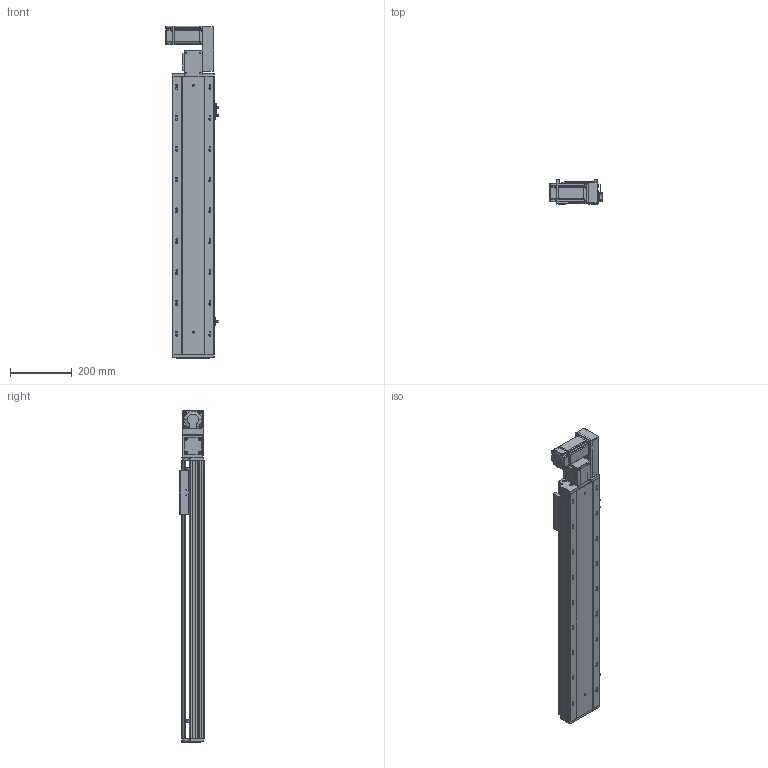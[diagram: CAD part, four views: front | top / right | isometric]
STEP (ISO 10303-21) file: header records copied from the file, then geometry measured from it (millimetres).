
FILE_DESCRIPTION (( 'STEP AP203' ), '1' );
FILE_NAME ('RY140-T-300-RK.SLDASM_650.step', '2021-03-01T06:45:19', ( '盈信电脑' ), ( '东莞市道滘镇水果街19号' ), 'SwSTEP 2.0', 'SolidWorks 2012', '' );
FILE_SCHEMA (( 'CONFIG_CONTROL_DESIGN' ));
Products named in the file (17): RY120-T主同步轮轴承压盖; 15; RY140-T-300-RK.SLDASM_650; RY140-T翋肮謫裔啣; RY140-T萇儂欶; RY120-T蹟翐M4; RY140-T萇儂假蚾啣; RY140-T翋肮祭謫盓傅釱; RY120-T肮祭湍揤踡輸2; 滅袉蝶18-10; RY120-T肮祭湍揤踡輸1; RY140綴裔啣; RY120外置感应片(140共用）; RY140-T-300-DR倰第奻裔啣_650; 覜茼ん672; RY140-T-300-DR倰第菁釱_650; RY140肮祭謫臏賑輸
Assembly tree (22 placements, depth 2):
  RY140-T-300-RK.SLDASM_650
    RY140-T-300-DR倰第菁釱_650
    RY140肮祭謫臏賑輸
    RY140-T-300-DR倰第奻裔啣_650
    RY140綴裔啣
    覜茼ん672  x3
    RY120外置感应片(140共用）
    RY120-T肮祭湍揤踡輸2
    RY120-T肮祭湍揤踡輸1
    RY140-T翋肮祭謫盓傅釱
    滅袉蝶18-10  x2
    RY140-T翋肮謫裔啣
    RY140-T萇儂欶
    RY140-T萇儂假蚾啣
    RY120-T蹟翐M4  x4
    15
    RY120-T主同步轮轴承压盖
Bounding box: 170.7 x 78 x 1076.5 mm (x, y, z)
Volume: 3154855.8 mm3; surface area: 1183393.3 mm2
Topology: 22 solids, 22 shells, 2655 faces, 7297 edges, 4698 vertices
Faces by surface type: plane 1381, cylinder 976, cone 198, bspline 100
Entity records: 84342 total; most frequent: CARTESIAN_POINT 20745, ORIENTED_EDGE 13122, DIRECTION 12397, EDGE_CURVE 6561, VERTEX_POINT 4297, LINE 4193, VECTOR 4193, AXIS2_PLACEMENT_3D 4102
